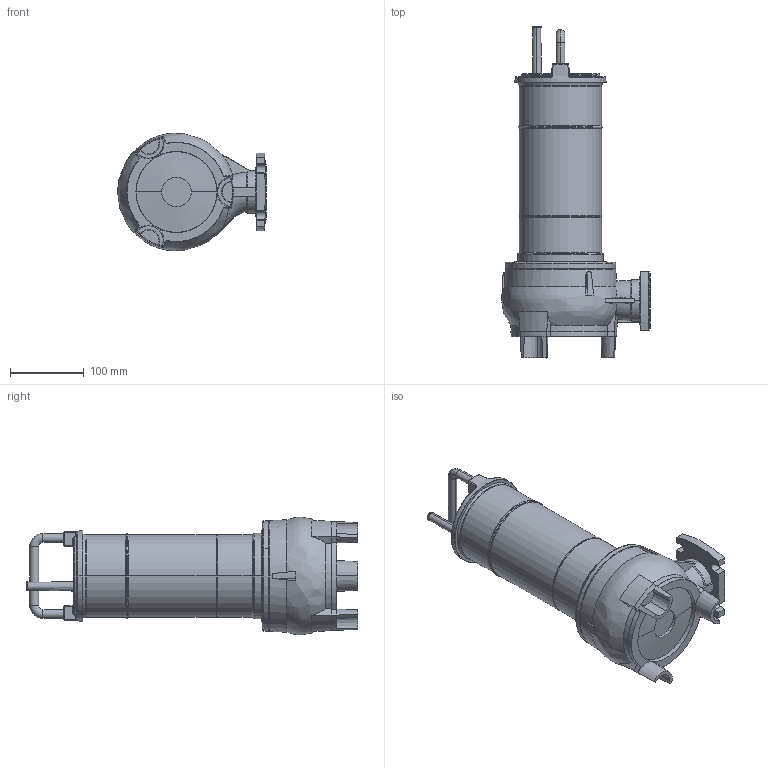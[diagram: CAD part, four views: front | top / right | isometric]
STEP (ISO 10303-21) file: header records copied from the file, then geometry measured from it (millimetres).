
FILE_DESCRIPTION (( 'STEP AP203' ), '1' );
FILE_NAME ('40FWS_04-06-07.STEP', '2026-06-08T12:07:07', ( '' ), ( '' ), 'SwSTEP 2.0', 'SolidWorks 2024', '' );
FILE_SCHEMA (( 'CONFIG_CONTROL_DESIGN' ));
Length unit declared in the file: millimetre
Products named in the file (1): 40FWS_04-06-07
Bounding box: 201.9 x 450.2 x 159.69 mm (x, y, z)
Volume: 4549293.6 mm3; surface area: 223771.6 mm2
Topology: 1 solids, 2 shells, 406 faces, 995 edges, 601 vertices
Faces by surface type: plane 148, cylinder 77, cone 73, torus 48, bspline 48, sphere 12
Entity records: 15573 total; most frequent: CARTESIAN_POINT 6418, ORIENTED_EDGE 1966, DIRECTION 1805, EDGE_CURVE 983, AXIS2_PLACEMENT_3D 710, VERTEX_POINT 601, EDGE_LOOP 430, ADVANCED_FACE 406
